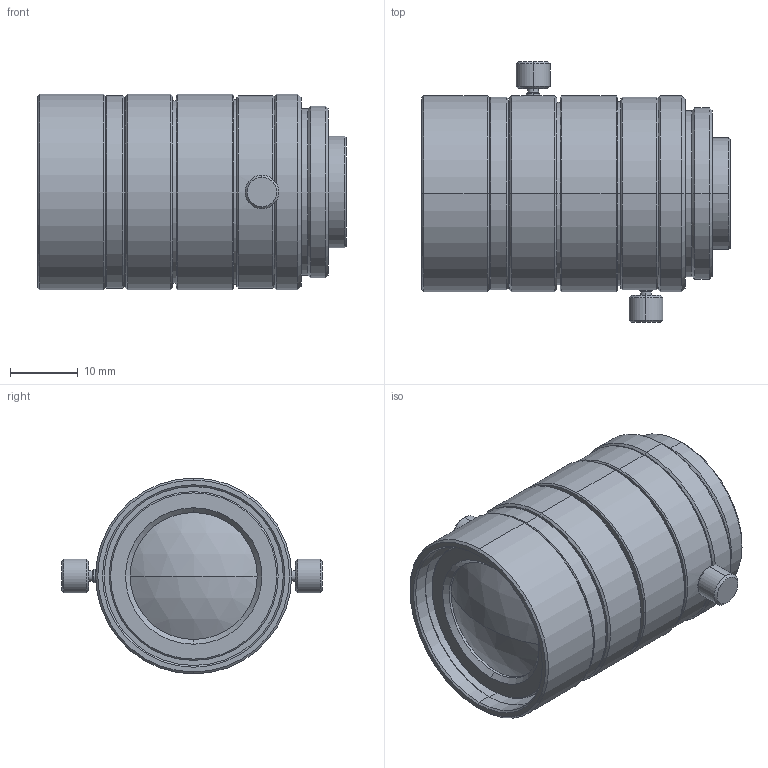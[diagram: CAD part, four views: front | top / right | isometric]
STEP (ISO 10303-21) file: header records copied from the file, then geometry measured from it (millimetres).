
FILE_DESCRIPTION (( 'STEP AP203' ), '1' );
FILE_NAME ('VS-0620VM.STEP', '2016-08-17T05:59:03', ( '' ), ( '' ), 'SwSTEP 2.0', 'SolidWorks 2016', '' );
FILE_SCHEMA (( 'CONFIG_CONTROL_DESIGN' ));
Length unit declared in the file: millimetre
Products named in the file (1): VS-0620VM
Bounding box: 45.7 x 38.6 x 29 mm (x, y, z)
Volume: 25960.6 mm3; surface area: 7900.2 mm2
Topology: 1 solids, 1 shells, 151 faces, 304 edges, 178 vertices
Faces by surface type: cone 70, cylinder 54, plane 23, sphere 4
Entity records: 4055 total; most frequent: DIRECTION 780, CARTESIAN_POINT 698, ORIENTED_EDGE 608, AXIS2_PLACEMENT_3D 328, EDGE_CURVE 304, VERTEX_POINT 178, CIRCLE 176, EDGE_LOOP 174
